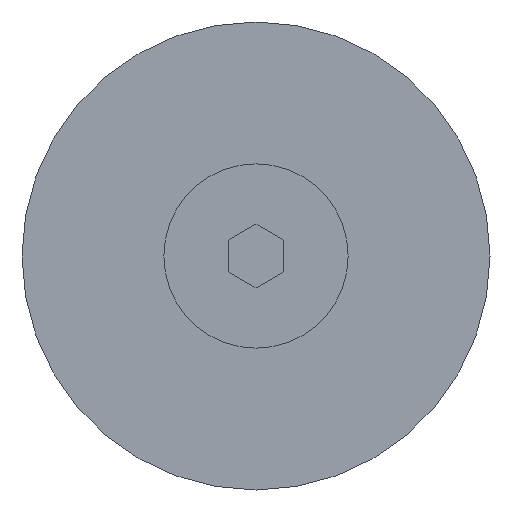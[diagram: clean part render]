
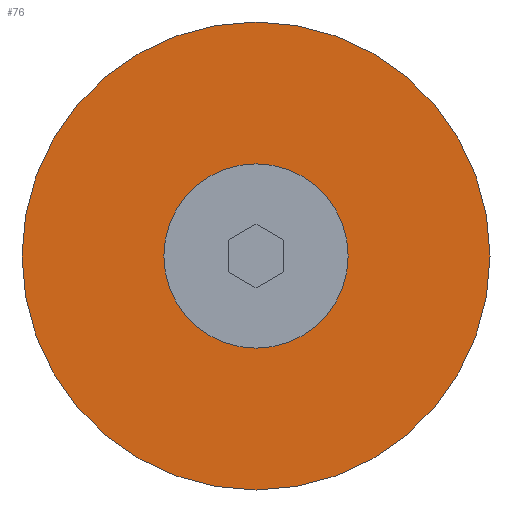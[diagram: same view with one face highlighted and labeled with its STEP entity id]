
A CAD part, front view. The second image highlights one B-rep face of the part: STEP entity #76.
In plain terms, the highlighted planar face has unit normal (0, -1, 0).
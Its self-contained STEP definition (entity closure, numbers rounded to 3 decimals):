
#76=ADVANCED_FACE('',(#108,#109),#110,.F.);
#108=FACE_OUTER_BOUND('',#172,.T.);
#109=FACE_BOUND('',#173,.T.);
#110=PLANE('',#174);
#172=EDGE_LOOP('',(#241,#242));
#173=EDGE_LOOP('',(#243,#244));
#174=AXIS2_PLACEMENT_3D('',#245,#246,#247);
#241=ORIENTED_EDGE('',*,*,#460,.T.);
#242=ORIENTED_EDGE('',*,*,#459,.T.);
#243=ORIENTED_EDGE('',*,*,#461,.F.);
#244=ORIENTED_EDGE('',*,*,#462,.F.);
#245=CARTESIAN_POINT('',(-6.35,-4.0,0.0));
#246=DIRECTION('',(-0.0,1.0,0.0));
#247=DIRECTION('',(1.0,0.0,0.0));
#459=EDGE_CURVE('',#523,#527,#529,.T.);
#460=EDGE_CURVE('',#527,#523,#530,.T.);
#461=EDGE_CURVE('',#531,#532,#533,.T.);
#462=EDGE_CURVE('',#532,#531,#534,.T.);
#523=VERTEX_POINT('',#631);
#527=VERTEX_POINT('',#636);
#529=CIRCLE('',#639,6.35);
#530=CIRCLE('',#640,6.35);
#531=VERTEX_POINT('',#641);
#532=VERTEX_POINT('',#642);
#533=CIRCLE('',#643,2.5);
#534=CIRCLE('',#644,2.5);
#631=CARTESIAN_POINT('',(0.,-4.0,6.35));
#636=CARTESIAN_POINT('',(0.,-4.0,-6.35));
#639=AXIS2_PLACEMENT_3D('',#791,#792,#793);
#640=AXIS2_PLACEMENT_3D('',#794,#795,#796);
#641=CARTESIAN_POINT('',(0.,-4.0,-2.5));
#642=CARTESIAN_POINT('',(0.,-4.0,2.5));
#643=AXIS2_PLACEMENT_3D('',#797,#798,#799);
#644=AXIS2_PLACEMENT_3D('',#800,#801,#802);
#791=CARTESIAN_POINT('',(0.,-4.0,0.0));
#792=DIRECTION('',(0.0,-1.0,0.0));
#793=DIRECTION('',(0.0,0.0,-1.0));
#794=CARTESIAN_POINT('',(0.,-4.0,0.0));
#795=DIRECTION('',(0.0,-1.0,0.0));
#796=DIRECTION('',(0.0,0.0,-1.0));
#797=CARTESIAN_POINT('',(0.,-4.0,0.0));
#798=DIRECTION('',(0.0,-1.0,0.0));
#799=DIRECTION('',(0.0,0.0,-1.0));
#800=CARTESIAN_POINT('',(0.,-4.0,0.0));
#801=DIRECTION('',(0.0,-1.0,0.0));
#802=DIRECTION('',(0.0,0.0,-1.0));
